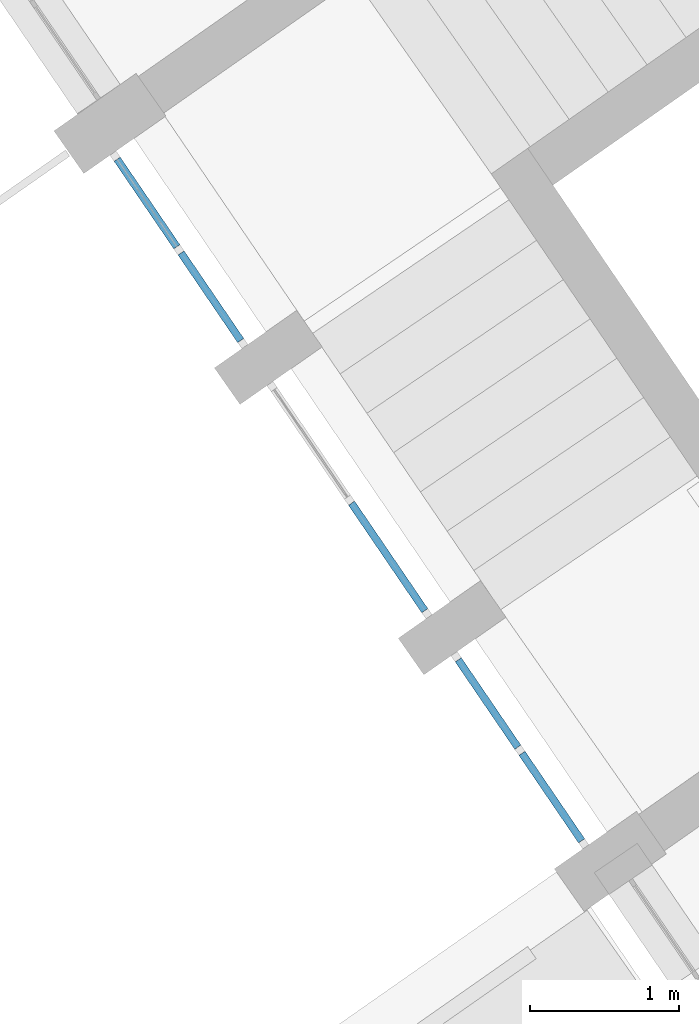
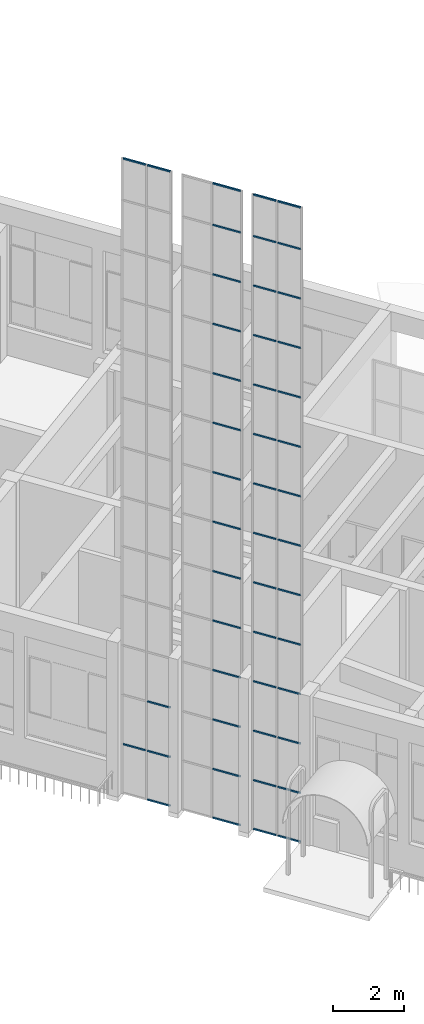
# One storey, part 31 of 157: 48 members, 3 elements without a shape of their own.
"""IFC2X3 building model written with IfcOpenShell, lengths in millimetres."""

from ifc_helpers import new_model, entity, si_unit, converted_unit, derived_unit, direction, frame, origin, origin_2d_with_axis, place, context, subcontext, project, spatial, rectangle, extrude, source, transform, mapped, material, type_object, type_shapes, element, aggregate, save


model = new_model("IFC2X3")

# Units and contexts
model_context = context("Model", 3, precision=0.01, world=origin(), true_north=direction((6.123031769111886e-17, 1.0)))
body_context = subcontext(model_context, "Body", "Model", "MODEL_VIEW")
ifc_project = project(units=[si_unit("LENGTHUNIT", "METRE", prefix="MILLI"), si_unit("AREAUNIT", "SQUARE_METRE"), si_unit("VOLUMEUNIT", "CUBIC_METRE"), converted_unit("PLANEANGLEUNIT", "DEGREE", entity("IfcRatioMeasure", 0.017453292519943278), si_unit("PLANEANGLEUNIT", "RADIAN"), dimensions=[0, 0, 0, 0, 0, 0, 0]), si_unit("MASSUNIT", "GRAM", prefix="KILO"), derived_unit("MASSDENSITYUNIT", [(si_unit("MASSUNIT", "GRAM", prefix="KILO"), 1), (si_unit("LENGTHUNIT", "METRE"), -3)]), derived_unit("MOMENTOFINERTIAUNIT", [(si_unit("LENGTHUNIT", "METRE"), 4)]), si_unit("TIMEUNIT", "SECOND"), si_unit("FREQUENCYUNIT", "HERTZ"), si_unit("THERMODYNAMICTEMPERATUREUNIT", "DEGREE_CELSIUS"), derived_unit("THERMALTRANSMITTANCEUNIT", [(si_unit("MASSUNIT", "GRAM", prefix="KILO"), 1), (si_unit("THERMODYNAMICTEMPERATUREUNIT", "KELVIN"), -1), (si_unit("TIMEUNIT", "SECOND"), -3)]), derived_unit("THERMALCONDUCTANCEUNIT", [(si_unit("MASSUNIT", "GRAM", prefix="KILO"), 1), (si_unit("LENGTHUNIT", "METRE"), 1), (si_unit("THERMODYNAMICTEMPERATUREUNIT", "KELVIN"), -1), (si_unit("TIMEUNIT", "SECOND"), -3)]), derived_unit("VOLUMETRICFLOWRATEUNIT", [(si_unit("LENGTHUNIT", "METRE"), 3), (si_unit("TIMEUNIT", "SECOND"), -1)]), derived_unit("MASSFLOWRATEUNIT", [(si_unit("MASSUNIT", "GRAM", prefix="KILO"), 1), (si_unit("TIMEUNIT", "SECOND"), -1)]), derived_unit("ROTATIONALFREQUENCYUNIT", [(si_unit("TIMEUNIT", "SECOND"), -1)]), si_unit("ELECTRICCURRENTUNIT", "AMPERE"), si_unit("ELECTRICVOLTAGEUNIT", "VOLT"), si_unit("POWERUNIT", "WATT"), converted_unit("FORCEUNIT", "KIP", entity("IfcRatioMeasure", 2.088543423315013e-05), si_unit("FORCEUNIT", "NEWTON"), dimensions=[1, 1, -2, 0, 0, 0, 0]), si_unit("ILLUMINANCEUNIT", "LUX"), si_unit("LUMINOUSFLUXUNIT", "LUMEN"), si_unit("LUMINOUSINTENSITYUNIT", "CANDELA"), derived_unit("USERDEFINED", [(si_unit("MASSUNIT", "GRAM", prefix="KILO"), -1), (si_unit("LENGTHUNIT", "METRE"), -2), (si_unit("TIMEUNIT", "SECOND"), 3), (si_unit("LUMINOUSFLUXUNIT", "LUMEN"), 1)]), derived_unit("USERDEFINED", [(si_unit("MASSUNIT", "GRAM", prefix="KILO"), 1), (si_unit("LENGTHUNIT", "METRE"), 3), (si_unit("TIMEUNIT", "SECOND"), -3), (si_unit("ELECTRICCURRENTUNIT", "AMPERE"), -2)]), derived_unit("USERDEFINED", [(si_unit("LENGTHUNIT", "METRE"), 2), (si_unit("TIMEUNIT", "SECOND"), -2)]), derived_unit("SOUNDPOWERUNIT", [(si_unit("MASSUNIT", "GRAM", prefix="KILO"), 1), (si_unit("LENGTHUNIT", "METRE"), 2), (si_unit("TIMEUNIT", "SECOND"), -3)]), derived_unit("SOUNDPRESSUREUNIT", [(si_unit("MASSUNIT", "GRAM", prefix="KILO"), 1), (si_unit("LENGTHUNIT", "METRE"), -1), (si_unit("TIMEUNIT", "SECOND"), -2)]), derived_unit("LINEARVELOCITYUNIT", [(si_unit("LENGTHUNIT", "METRE"), 1), (si_unit("TIMEUNIT", "SECOND"), -1)]), si_unit("PRESSUREUNIT", "PASCAL"), derived_unit("USERDEFINED", [(si_unit("LENGTHUNIT", "METRE"), -2), (si_unit("MASSUNIT", "GRAM", prefix="KILO"), 1), (si_unit("TIMEUNIT", "SECOND"), -2)]), derived_unit("LINEARFORCEUNIT", [(si_unit("MASSUNIT", "GRAM", prefix="KILO"), 1), (si_unit("LENGTHUNIT", "METRE"), 1), (si_unit("TIMEUNIT", "SECOND"), -2), (si_unit("LENGTHUNIT", "METRE"), -1)]), derived_unit("PLANARFORCEUNIT", [(si_unit("MASSUNIT", "GRAM", prefix="KILO"), 1), (si_unit("LENGTHUNIT", "METRE"), 1), (si_unit("TIMEUNIT", "SECOND"), -2), (si_unit("LENGTHUNIT", "METRE"), -2)]), derived_unit("SPECIFICHEATCAPACITYUNIT", [(si_unit("LENGTHUNIT", "METRE"), 2), (si_unit("TIMEUNIT", "SECOND"), -2), (si_unit("THERMODYNAMICTEMPERATUREUNIT", "KELVIN"), -1)]), derived_unit("VAPORPERMEABILITYUNIT", [(si_unit("TIMEUNIT", "SECOND"), 1), (si_unit("LENGTHUNIT", "METRE"), -1)]), derived_unit("DYNAMICVISCOSITYUNIT", [(si_unit("MASSUNIT", "GRAM", prefix="KILO"), 1), (si_unit("LENGTHUNIT", "METRE"), -1), (si_unit("TIMEUNIT", "SECOND"), -1)]), derived_unit("THERMALEXPANSIONCOEFFICIENTUNIT", [(si_unit("THERMODYNAMICTEMPERATUREUNIT", "KELVIN"), -1)])], contexts=[model_context])

# Site, building, storey
site_placement = place(None, frame((0.0, 0.0, 0.0), z_axis=(0.0, 0.0, 1.0), x_axis=(0.8191520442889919, 0.5735764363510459, 0.0)))
site = spatial("IfcSite", under=ifc_project, at=site_placement, Name="Default", CompositionType="ELEMENT")
building_placement = place(site_placement, origin())
building = spatial("IfcBuilding", under=site, at=building_placement, CompositionType="ELEMENT")
storey_placement = place(building_placement, origin())
storey = spatial("IfcBuildingStorey", under=building, at=storey_placement, Name="1.EG +0.00", CompositionType="ELEMENT", Elevation=-4.331468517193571e-12)

# Curtain wall, members
curtain_wall_type_1 = type_object("IfcCurtainWallType", Name="Curtain Wall:Curtain_Wall_CJC", PredefinedType="NOTDEFINED")
curtain_wall_1_placement = place(storey_placement, origin())
curtain_wall_1 = element("IfcCurtainWall", 1, at=curtain_wall_1_placement, inside=storey, type_object=curtain_wall_type_1, Name="Curtain Wall:Curtain_Wall_CJC", ObjectType="Curtain Wall:Curtain_Wall_CJC")
ifc_material = material(Name="Aluminium")
member_type_1 = type_object("IfcMemberType", Name="Rectangular Mullion:5x5", PredefinedType="MULLION", material=ifc_material)
shared_shape_1 = source(origin(), body_context, "Body", "SweptSolid", [
    extrude(rectangle(XDim=50.000000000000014, YDim=50.0, at=origin_2d_with_axis()), frame((-25.0, 0.0, -712.0002822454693), z_axis=(0.0, 0.0, 1.0), x_axis=(0.0, -1.0, 0.0)), (0.0, 0.0, 1.0), 712.0002822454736),
])
type_shapes(member_type_1, [shared_shape_1])
member_1_placement = place(curtain_wall_1_placement, frame((-223103.04818166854, 111395.23599748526, 21850.0), z_axis=(0.012729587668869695, 0.9999189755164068, 0.0), x_axis=(0.0, 0.0, 1.0)))
member_1 = element("IfcMember", 2, at=member_1_placement, type_object=member_type_1, material=ifc_material, Name="Rectangular Mullion:5x5", ObjectType="Rectangular Mullion:5x5", context=body_context, shape_type="MappedRepresentation", body=[
    mapped(shared_shape_1, transform((0.0, 0.0, 0.0), scale=1.0)),
])
member_2_placement = place(curtain_wall_1_placement, frame((-223112.7481310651, 110633.29745591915, 21850.0), z_axis=(0.012729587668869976, 0.9999189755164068, 0.0), x_axis=(0.0, 0.0, 1.0)))
member_2 = element("IfcMember", 3, at=member_2_placement, type_object=member_type_1, material=ifc_material, Name="Rectangular Mullion:5x5", ObjectType="Rectangular Mullion:5x5", context=body_context, shape_type="MappedRepresentation", body=[
    mapped(shared_shape_1, transform((0.0, 0.0, 0.0), scale=1.0)),
])
member_type_2 = type_object("IfcMemberType", Name="Rectangular Mullion:5x5", PredefinedType="MULLION", material=ifc_material)
shared_shape_2 = source(origin(), body_context, "Body", "SweptSolid", [
    extrude(rectangle(XDim=50.0, YDim=50.0, at=origin_2d_with_axis()), frame((0.0, 0.0, -712.0002822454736), z_axis=(0.0, 0.0, 1.0), x_axis=(0.0, -1.0, 0.0)), (0.0, 0.0, 1.0), 712.0002822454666),
])
type_shapes(member_type_2, [shared_shape_2])
member_3_placement = place(curtain_wall_1_placement, frame((-223112.7481310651, 110633.29745591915, 1700.0), z_axis=(0.012729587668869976, 0.9999189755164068, 0.0), x_axis=(0.0, 0.0, 1.0)))
member_3 = element("IfcMember", 4, at=member_3_placement, type_object=member_type_2, material=ifc_material, Name="Rectangular Mullion:5x5", ObjectType="Rectangular Mullion:5x5", context=body_context, shape_type="MappedRepresentation", body=[
    mapped(shared_shape_2, transform((0.0, 0.0, 0.0), scale=1.0)),
])
member_4_placement = place(curtain_wall_1_placement, frame((-223112.7481310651, 110633.29745591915, 3400.0), z_axis=(0.012729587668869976, 0.9999189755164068, 0.0), x_axis=(0.0, 0.0, 1.0)))
member_4 = element("IfcMember", 5, at=member_4_placement, type_object=member_type_2, material=ifc_material, Name="Rectangular Mullion:5x5", ObjectType="Rectangular Mullion:5x5", context=body_context, shape_type="MappedRepresentation", body=[
    mapped(shared_shape_2, transform((0.0, 0.0, 0.0), scale=1.0)),
])
member_5_placement = place(curtain_wall_1_placement, frame((-223103.04818166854, 111395.23599748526, 1700.0), z_axis=(0.012729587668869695, 0.9999189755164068, 0.0), x_axis=(0.0, 0.0, 1.0)))
member_5 = element("IfcMember", 6, at=member_5_placement, type_object=member_type_2, material=ifc_material, Name="Rectangular Mullion:5x5", ObjectType="Rectangular Mullion:5x5", context=body_context, shape_type="MappedRepresentation", body=[
    mapped(shared_shape_2, transform((0.0, 0.0, 0.0), scale=1.0)),
])
member_6_placement = place(curtain_wall_1_placement, frame((-223103.04818166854, 111395.23599748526, 3400.0), z_axis=(0.012729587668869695, 0.9999189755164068, 0.0), x_axis=(0.0, 0.0, 1.0)))
member_6 = element("IfcMember", 7, at=member_6_placement, type_object=member_type_2, material=ifc_material, Name="Rectangular Mullion:5x5", ObjectType="Rectangular Mullion:5x5", context=body_context, shape_type="MappedRepresentation", body=[
    mapped(shared_shape_2, transform((0.0, 0.0, 0.0), scale=1.0)),
])
member_7_placement = place(curtain_wall_1_placement, frame((-223112.7481310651, 110633.29745591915, 5100.0), z_axis=(0.012729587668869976, 0.9999189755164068, 0.0), x_axis=(0.0, 0.0, 1.0)))
member_7 = element("IfcMember", 8, at=member_7_placement, type_object=member_type_2, material=ifc_material, Name="Rectangular Mullion:5x5", ObjectType="Rectangular Mullion:5x5", context=body_context, shape_type="MappedRepresentation", body=[
    mapped(shared_shape_2, transform((0.0, 0.0, 0.0), scale=1.0)),
])
member_8_placement = place(curtain_wall_1_placement, frame((-223103.04818166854, 111395.23599748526, 5100.0), z_axis=(0.012729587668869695, 0.9999189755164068, 0.0), x_axis=(0.0, 0.0, 1.0)))
member_8 = element("IfcMember", 9, at=member_8_placement, type_object=member_type_2, material=ifc_material, Name="Rectangular Mullion:5x5", ObjectType="Rectangular Mullion:5x5", context=body_context, shape_type="MappedRepresentation", body=[
    mapped(shared_shape_2, transform((0.0, 0.0, 0.0), scale=1.0)),
])
member_9_placement = place(curtain_wall_1_placement, frame((-223112.7481310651, 110633.29745591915, 6800.0), z_axis=(0.012729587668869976, 0.9999189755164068, 0.0), x_axis=(0.0, 0.0, 1.0)))
member_9 = element("IfcMember", 10, at=member_9_placement, type_object=member_type_2, material=ifc_material, Name="Rectangular Mullion:5x5", ObjectType="Rectangular Mullion:5x5", context=body_context, shape_type="MappedRepresentation", body=[
    mapped(shared_shape_2, transform((0.0, 0.0, 0.0), scale=1.0)),
])
member_10_placement = place(curtain_wall_1_placement, frame((-223103.04818166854, 111395.23599748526, 6800.0), z_axis=(0.012729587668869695, 0.9999189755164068, 0.0), x_axis=(0.0, 0.0, 1.0)))
member_10 = element("IfcMember", 11, at=member_10_placement, type_object=member_type_2, material=ifc_material, Name="Rectangular Mullion:5x5", ObjectType="Rectangular Mullion:5x5", context=body_context, shape_type="MappedRepresentation", body=[
    mapped(shared_shape_2, transform((0.0, 0.0, 0.0), scale=1.0)),
])
member_11_placement = place(curtain_wall_1_placement, frame((-223112.7481310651, 110633.29745591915, 8500.0), z_axis=(0.012729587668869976, 0.9999189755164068, 0.0), x_axis=(0.0, 0.0, 1.0)))
member_11 = element("IfcMember", 12, at=member_11_placement, type_object=member_type_2, material=ifc_material, Name="Rectangular Mullion:5x5", ObjectType="Rectangular Mullion:5x5", context=body_context, shape_type="MappedRepresentation", body=[
    mapped(shared_shape_2, transform((0.0, 0.0, 0.0), scale=1.0)),
])
member_12_placement = place(curtain_wall_1_placement, frame((-223103.04818166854, 111395.23599748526, 8500.0), z_axis=(0.012729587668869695, 0.9999189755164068, 0.0), x_axis=(0.0, 0.0, 1.0)))
member_12 = element("IfcMember", 13, at=member_12_placement, type_object=member_type_2, material=ifc_material, Name="Rectangular Mullion:5x5", ObjectType="Rectangular Mullion:5x5", context=body_context, shape_type="MappedRepresentation", body=[
    mapped(shared_shape_2, transform((0.0, 0.0, 0.0), scale=1.0)),
])
member_13_placement = place(curtain_wall_1_placement, frame((-223112.7481310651, 110633.29745591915, 10200.0), z_axis=(0.012729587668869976, 0.9999189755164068, 0.0), x_axis=(0.0, 0.0, 1.0)))
member_13 = element("IfcMember", 14, at=member_13_placement, type_object=member_type_2, material=ifc_material, Name="Rectangular Mullion:5x5", ObjectType="Rectangular Mullion:5x5", context=body_context, shape_type="MappedRepresentation", body=[
    mapped(shared_shape_2, transform((0.0, 0.0, 0.0), scale=1.0)),
])
member_14_placement = place(curtain_wall_1_placement, frame((-223103.04818166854, 111395.23599748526, 10200.0), z_axis=(0.012729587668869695, 0.9999189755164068, 0.0), x_axis=(0.0, 0.0, 1.0)))
member_14 = element("IfcMember", 15, at=member_14_placement, type_object=member_type_2, material=ifc_material, Name="Rectangular Mullion:5x5", ObjectType="Rectangular Mullion:5x5", context=body_context, shape_type="MappedRepresentation", body=[
    mapped(shared_shape_2, transform((0.0, 0.0, 0.0), scale=1.0)),
])
member_15_placement = place(curtain_wall_1_placement, frame((-223112.7481310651, 110633.29745591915, 11900.0), z_axis=(0.012729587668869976, 0.9999189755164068, 0.0), x_axis=(0.0, 0.0, 1.0)))
member_15 = element("IfcMember", 16, at=member_15_placement, type_object=member_type_2, material=ifc_material, Name="Rectangular Mullion:5x5", ObjectType="Rectangular Mullion:5x5", context=body_context, shape_type="MappedRepresentation", body=[
    mapped(shared_shape_2, transform((0.0, 0.0, 0.0), scale=1.0)),
])
member_16_placement = place(curtain_wall_1_placement, frame((-223103.04818166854, 111395.23599748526, 11900.0), z_axis=(0.012729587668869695, 0.9999189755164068, 0.0), x_axis=(0.0, 0.0, 1.0)))
member_16 = element("IfcMember", 17, at=member_16_placement, type_object=member_type_2, material=ifc_material, Name="Rectangular Mullion:5x5", ObjectType="Rectangular Mullion:5x5", context=body_context, shape_type="MappedRepresentation", body=[
    mapped(shared_shape_2, transform((0.0, 0.0, 0.0), scale=1.0)),
])
member_17_placement = place(curtain_wall_1_placement, frame((-223112.7481310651, 110633.29745591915, 13600.0), z_axis=(0.012729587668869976, 0.9999189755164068, 0.0), x_axis=(0.0, 0.0, 1.0)))
member_17 = element("IfcMember", 18, at=member_17_placement, type_object=member_type_2, material=ifc_material, Name="Rectangular Mullion:5x5", ObjectType="Rectangular Mullion:5x5", context=body_context, shape_type="MappedRepresentation", body=[
    mapped(shared_shape_2, transform((0.0, 0.0, 0.0), scale=1.0)),
])
member_18_placement = place(curtain_wall_1_placement, frame((-223103.04818166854, 111395.23599748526, 13600.0), z_axis=(0.012729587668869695, 0.9999189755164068, 0.0), x_axis=(0.0, 0.0, 1.0)))
member_18 = element("IfcMember", 19, at=member_18_placement, type_object=member_type_2, material=ifc_material, Name="Rectangular Mullion:5x5", ObjectType="Rectangular Mullion:5x5", context=body_context, shape_type="MappedRepresentation", body=[
    mapped(shared_shape_2, transform((0.0, 0.0, 0.0), scale=1.0)),
])
member_19_placement = place(curtain_wall_1_placement, frame((-223112.7481310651, 110633.29745591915, 15300.0), z_axis=(0.012729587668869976, 0.9999189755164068, 0.0), x_axis=(0.0, 0.0, 1.0)))
member_19 = element("IfcMember", 20, at=member_19_placement, type_object=member_type_2, material=ifc_material, Name="Rectangular Mullion:5x5", ObjectType="Rectangular Mullion:5x5", context=body_context, shape_type="MappedRepresentation", body=[
    mapped(shared_shape_2, transform((0.0, 0.0, 0.0), scale=1.0)),
])
member_20_placement = place(curtain_wall_1_placement, frame((-223103.04818166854, 111395.23599748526, 15300.0), z_axis=(0.012729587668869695, 0.9999189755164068, 0.0), x_axis=(0.0, 0.0, 1.0)))
member_20 = element("IfcMember", 21, at=member_20_placement, type_object=member_type_2, material=ifc_material, Name="Rectangular Mullion:5x5", ObjectType="Rectangular Mullion:5x5", context=body_context, shape_type="MappedRepresentation", body=[
    mapped(shared_shape_2, transform((0.0, 0.0, 0.0), scale=1.0)),
])
member_21_placement = place(curtain_wall_1_placement, frame((-223112.7481310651, 110633.29745591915, 17000.0), z_axis=(0.012729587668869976, 0.9999189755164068, 0.0), x_axis=(0.0, 0.0, 1.0)))
member_21 = element("IfcMember", 22, at=member_21_placement, type_object=member_type_2, material=ifc_material, Name="Rectangular Mullion:5x5", ObjectType="Rectangular Mullion:5x5", context=body_context, shape_type="MappedRepresentation", body=[
    mapped(shared_shape_2, transform((0.0, 0.0, 0.0), scale=1.0)),
])
member_22_placement = place(curtain_wall_1_placement, frame((-223103.04818166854, 111395.23599748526, 17000.0), z_axis=(0.012729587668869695, 0.9999189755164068, 0.0), x_axis=(0.0, 0.0, 1.0)))
member_22 = element("IfcMember", 23, at=member_22_placement, type_object=member_type_2, material=ifc_material, Name="Rectangular Mullion:5x5", ObjectType="Rectangular Mullion:5x5", context=body_context, shape_type="MappedRepresentation", body=[
    mapped(shared_shape_2, transform((0.0, 0.0, 0.0), scale=1.0)),
])
member_23_placement = place(curtain_wall_1_placement, frame((-223112.7481310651, 110633.29745591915, 18700.0), z_axis=(0.012729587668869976, 0.9999189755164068, 0.0), x_axis=(0.0, 0.0, 1.0)))
member_23 = element("IfcMember", 24, at=member_23_placement, type_object=member_type_2, material=ifc_material, Name="Rectangular Mullion:5x5", ObjectType="Rectangular Mullion:5x5", context=body_context, shape_type="MappedRepresentation", body=[
    mapped(shared_shape_2, transform((0.0, 0.0, 0.0), scale=1.0)),
])
member_24_placement = place(curtain_wall_1_placement, frame((-223103.04818166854, 111395.23599748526, 18700.0), z_axis=(0.012729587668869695, 0.9999189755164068, 0.0), x_axis=(0.0, 0.0, 1.0)))
member_24 = element("IfcMember", 25, at=member_24_placement, type_object=member_type_2, material=ifc_material, Name="Rectangular Mullion:5x5", ObjectType="Rectangular Mullion:5x5", context=body_context, shape_type="MappedRepresentation", body=[
    mapped(shared_shape_2, transform((0.0, 0.0, 0.0), scale=1.0)),
])
member_25_placement = place(curtain_wall_1_placement, frame((-223112.7481310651, 110633.29745591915, 20400.0), z_axis=(0.012729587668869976, 0.9999189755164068, 0.0), x_axis=(0.0, 0.0, 1.0)))
member_25 = element("IfcMember", 26, at=member_25_placement, type_object=member_type_2, material=ifc_material, Name="Rectangular Mullion:5x5", ObjectType="Rectangular Mullion:5x5", context=body_context, shape_type="MappedRepresentation", body=[
    mapped(shared_shape_2, transform((0.0, 0.0, 0.0), scale=1.0)),
])
member_26_placement = place(curtain_wall_1_placement, frame((-223103.04818166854, 111395.23599748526, 20400.0), z_axis=(0.012729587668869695, 0.9999189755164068, 0.0), x_axis=(0.0, 0.0, 1.0)))
member_26 = element("IfcMember", 27, at=member_26_placement, type_object=member_type_2, material=ifc_material, Name="Rectangular Mullion:5x5", ObjectType="Rectangular Mullion:5x5", context=body_context, shape_type="MappedRepresentation", body=[
    mapped(shared_shape_2, transform((0.0, 0.0, 0.0), scale=1.0)),
])
member_type_3 = type_object("IfcMemberType", Name="Rectangular Mullion:5x5", PredefinedType="MULLION", material=ifc_material)
shared_shape_3 = source(origin(), body_context, "Body", "SweptSolid", [
    extrude(rectangle(XDim=50.000000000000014, YDim=50.0, at=origin_2d_with_axis()), frame((-25.0, 0.0, -712.0002822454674), z_axis=(0.0, 0.0, 1.0), x_axis=(0.0, -1.0, 0.0)), (0.0, 0.0, 1.0), 712.0002822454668),
])
type_shapes(member_type_3, [shared_shape_3])
member_27_placement = place(curtain_wall_1_placement, frame((-223121.81160107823, 109921.35486312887, 0.0), z_axis=(-0.012729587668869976, -0.9999189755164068, 0.0), x_axis=(0.0, 0.0, -1.0)))
member_27 = element("IfcMember", 28, at=member_27_placement, type_object=member_type_3, material=ifc_material, Name="Rectangular Mullion:5x5", ObjectType="Rectangular Mullion:5x5", context=body_context, shape_type="MappedRepresentation", body=[
    mapped(shared_shape_3, transform((0.0, 0.0, 0.0), scale=1.0)),
])
member_28_placement = place(curtain_wall_1_placement, frame((-223112.11165168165, 110683.29340469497, 0.0), z_axis=(-0.012729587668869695, -0.9999189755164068, 0.0), x_axis=(0.0, 0.0, -1.0)))
member_28 = element("IfcMember", 29, at=member_28_placement, type_object=member_type_3, material=ifc_material, Name="Rectangular Mullion:5x5", ObjectType="Rectangular Mullion:5x5", context=body_context, shape_type="MappedRepresentation", body=[
    mapped(shared_shape_3, transform((0.0, 0.0, 0.0), scale=1.0)),
])
aggregate(curtain_wall_1, [member_1, member_3, member_27, member_4, member_2, member_5, member_28, member_6, member_7, member_8, member_9, member_10, member_11, member_12, member_13, member_14, member_15, member_16, member_17, member_18, member_19, member_20, member_21, member_22, member_23, member_24, member_25, member_26])

curtain_wall_type_2 = type_object("IfcCurtainWallType", Name="Curtain Wall:Curtain_Wall_CJC 2", PredefinedType="NOTDEFINED")
curtain_wall_2_placement = place(storey_placement, origin())
curtain_wall_2 = element("IfcCurtainWall", 30, at=curtain_wall_2_placement, inside=storey, type_object=curtain_wall_type_2, Name="Curtain Wall:Curtain_Wall_CJC 2", ObjectType="Curtain Wall:Curtain_Wall_CJC 2")
member_type_4 = type_object("IfcMemberType", Name="Rectangular Mullion:5x5", PredefinedType="MULLION", material=ifc_material)
shared_shape_4 = source(origin(), body_context, "Body", "SweptSolid", [
    extrude(rectangle(XDim=50.000000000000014, YDim=50.0, at=origin_2d_with_axis()), frame((-25.0, 0.0, -875.0769794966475), z_axis=(0.0, 0.0, 1.0), x_axis=(0.0, -1.0, 0.0)), (0.0, 0.0, 1.0), 875.0769794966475),
])
type_shapes(member_type_4, [shared_shape_4])
member_29_placement = place(curtain_wall_2_placement, frame((-223086.81666802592, 112670.23397187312, 21850.0), z_axis=(0.01272958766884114, 0.9999189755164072, 0.0), x_axis=(0.0, 0.0, 1.0)))
member_29 = element("IfcMember", 31, at=member_29_placement, type_object=member_type_4, material=ifc_material, Name="Rectangular Mullion:5x5", ObjectType="Rectangular Mullion:5x5", context=body_context, shape_type="MappedRepresentation", body=[
    mapped(shared_shape_4, transform((0.0, 0.0, 0.0), scale=1.0)),
])
member_type_5 = type_object("IfcMemberType", Name="Rectangular Mullion:5x5", PredefinedType="MULLION", material=ifc_material)
shared_shape_5 = source(origin(), body_context, "Body", "SweptSolid", [
    extrude(rectangle(XDim=50.0, YDim=50.0, at=origin_2d_with_axis()), frame((0.0, 0.0, -875.0769794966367), z_axis=(0.0, 0.0, 1.0), x_axis=(0.0, -1.0, 0.0)), (0.0, 0.0, 1.0), 875.0769794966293),
])
type_shapes(member_type_5, [shared_shape_5])
member_30_placement = place(curtain_wall_2_placement, frame((-223086.81666802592, 112670.23397187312, 1700.0), z_axis=(0.01272958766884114, 0.9999189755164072, 0.0), x_axis=(0.0, 0.0, 1.0)))
member_30 = element("IfcMember", 32, at=member_30_placement, type_object=member_type_5, material=ifc_material, Name="Rectangular Mullion:5x5", ObjectType="Rectangular Mullion:5x5", context=body_context, shape_type="MappedRepresentation", body=[
    mapped(shared_shape_5, transform((0.0, 0.0, 0.0), scale=1.0)),
])
member_31_placement = place(curtain_wall_2_placement, frame((-223086.81666802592, 112670.23397187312, 3400.0), z_axis=(0.01272958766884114, 0.9999189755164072, 0.0), x_axis=(0.0, 0.0, 1.0)))
member_31 = element("IfcMember", 33, at=member_31_placement, type_object=member_type_5, material=ifc_material, Name="Rectangular Mullion:5x5", ObjectType="Rectangular Mullion:5x5", context=body_context, shape_type="MappedRepresentation", body=[
    mapped(shared_shape_5, transform((0.0, 0.0, 0.0), scale=1.0)),
])
member_32_placement = place(curtain_wall_2_placement, frame((-223086.81666802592, 112670.23397187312, 5100.0), z_axis=(0.01272958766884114, 0.9999189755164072, 0.0), x_axis=(0.0, 0.0, 1.0)))
member_32 = element("IfcMember", 34, at=member_32_placement, type_object=member_type_5, material=ifc_material, Name="Rectangular Mullion:5x5", ObjectType="Rectangular Mullion:5x5", context=body_context, shape_type="MappedRepresentation", body=[
    mapped(shared_shape_5, transform((0.0, 0.0, 0.0), scale=1.0)),
])
member_33_placement = place(curtain_wall_2_placement, frame((-223086.81666802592, 112670.23397187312, 6800.0), z_axis=(0.01272958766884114, 0.9999189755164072, 0.0), x_axis=(0.0, 0.0, 1.0)))
member_33 = element("IfcMember", 35, at=member_33_placement, type_object=member_type_5, material=ifc_material, Name="Rectangular Mullion:5x5", ObjectType="Rectangular Mullion:5x5", context=body_context, shape_type="MappedRepresentation", body=[
    mapped(shared_shape_5, transform((0.0, 0.0, 0.0), scale=1.0)),
])
member_34_placement = place(curtain_wall_2_placement, frame((-223086.81666802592, 112670.23397187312, 8500.0), z_axis=(0.01272958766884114, 0.9999189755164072, 0.0), x_axis=(0.0, 0.0, 1.0)))
member_34 = element("IfcMember", 36, at=member_34_placement, type_object=member_type_5, material=ifc_material, Name="Rectangular Mullion:5x5", ObjectType="Rectangular Mullion:5x5", context=body_context, shape_type="MappedRepresentation", body=[
    mapped(shared_shape_5, transform((0.0, 0.0, 0.0), scale=1.0)),
])
member_35_placement = place(curtain_wall_2_placement, frame((-223086.81666802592, 112670.23397187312, 10200.0), z_axis=(0.01272958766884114, 0.9999189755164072, 0.0), x_axis=(0.0, 0.0, 1.0)))
member_35 = element("IfcMember", 37, at=member_35_placement, type_object=member_type_5, material=ifc_material, Name="Rectangular Mullion:5x5", ObjectType="Rectangular Mullion:5x5", context=body_context, shape_type="MappedRepresentation", body=[
    mapped(shared_shape_5, transform((0.0, 0.0, 0.0), scale=1.0)),
])
member_36_placement = place(curtain_wall_2_placement, frame((-223086.81666802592, 112670.23397187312, 11900.0), z_axis=(0.01272958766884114, 0.9999189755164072, 0.0), x_axis=(0.0, 0.0, 1.0)))
member_36 = element("IfcMember", 38, at=member_36_placement, type_object=member_type_5, material=ifc_material, Name="Rectangular Mullion:5x5", ObjectType="Rectangular Mullion:5x5", context=body_context, shape_type="MappedRepresentation", body=[
    mapped(shared_shape_5, transform((0.0, 0.0, 0.0), scale=1.0)),
])
member_37_placement = place(curtain_wall_2_placement, frame((-223086.81666802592, 112670.23397187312, 13600.0), z_axis=(0.01272958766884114, 0.9999189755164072, 0.0), x_axis=(0.0, 0.0, 1.0)))
member_37 = element("IfcMember", 39, at=member_37_placement, type_object=member_type_5, material=ifc_material, Name="Rectangular Mullion:5x5", ObjectType="Rectangular Mullion:5x5", context=body_context, shape_type="MappedRepresentation", body=[
    mapped(shared_shape_5, transform((0.0, 0.0, 0.0), scale=1.0)),
])
member_38_placement = place(curtain_wall_2_placement, frame((-223086.81666802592, 112670.23397187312, 15300.0), z_axis=(0.01272958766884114, 0.9999189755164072, 0.0), x_axis=(0.0, 0.0, 1.0)))
member_38 = element("IfcMember", 40, at=member_38_placement, type_object=member_type_5, material=ifc_material, Name="Rectangular Mullion:5x5", ObjectType="Rectangular Mullion:5x5", context=body_context, shape_type="MappedRepresentation", body=[
    mapped(shared_shape_5, transform((0.0, 0.0, 0.0), scale=1.0)),
])
member_39_placement = place(curtain_wall_2_placement, frame((-223086.81666802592, 112670.23397187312, 17000.0), z_axis=(0.01272958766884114, 0.9999189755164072, 0.0), x_axis=(0.0, 0.0, 1.0)))
member_39 = element("IfcMember", 41, at=member_39_placement, type_object=member_type_5, material=ifc_material, Name="Rectangular Mullion:5x5", ObjectType="Rectangular Mullion:5x5", context=body_context, shape_type="MappedRepresentation", body=[
    mapped(shared_shape_5, transform((0.0, 0.0, 0.0), scale=1.0)),
])
member_40_placement = place(curtain_wall_2_placement, frame((-223086.81666802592, 112670.23397187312, 18700.0), z_axis=(0.01272958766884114, 0.9999189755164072, 0.0), x_axis=(0.0, 0.0, 1.0)))
member_40 = element("IfcMember", 42, at=member_40_placement, type_object=member_type_5, material=ifc_material, Name="Rectangular Mullion:5x5", ObjectType="Rectangular Mullion:5x5", context=body_context, shape_type="MappedRepresentation", body=[
    mapped(shared_shape_5, transform((0.0, 0.0, 0.0), scale=1.0)),
])
member_41_placement = place(curtain_wall_2_placement, frame((-223086.81666802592, 112670.23397187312, 20400.0), z_axis=(0.01272958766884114, 0.9999189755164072, 0.0), x_axis=(0.0, 0.0, 1.0)))
member_41 = element("IfcMember", 43, at=member_41_placement, type_object=member_type_5, material=ifc_material, Name="Rectangular Mullion:5x5", ObjectType="Rectangular Mullion:5x5", context=body_context, shape_type="MappedRepresentation", body=[
    mapped(shared_shape_5, transform((0.0, 0.0, 0.0), scale=1.0)),
])
member_type_6 = type_object("IfcMemberType", Name="Rectangular Mullion:5x5", PredefinedType="MULLION", material=ifc_material)
shared_shape_6 = source(origin(), body_context, "Body", "SweptSolid", [
    extrude(rectangle(XDim=49.99999999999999, YDim=50.0, at=origin_2d_with_axis()), frame((-25.0, 0.0, -875.0769794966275), z_axis=(0.0, 0.0, 1.0), x_axis=(0.0, -1.0, 0.0)), (0.0, 0.0, 1.0), 875.0769794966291),
])
type_shapes(member_type_6, [shared_shape_6])
member_42_placement = place(curtain_wall_2_placement, frame((-223097.9560371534, 111795.22789503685, 0.0), z_axis=(-0.01272958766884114, -0.9999189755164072, 0.0), x_axis=(0.0, 0.0, -1.0)))
member_42 = element("IfcMember", 44, at=member_42_placement, type_object=member_type_6, material=ifc_material, Name="Rectangular Mullion:5x5", ObjectType="Rectangular Mullion:5x5", context=body_context, shape_type="MappedRepresentation", body=[
    mapped(shared_shape_6, transform((0.0, 0.0, 0.0), scale=1.0)),
])
aggregate(curtain_wall_2, [member_30, member_42, member_31, member_29, member_32, member_33, member_34, member_35, member_36, member_37, member_38, member_39, member_40, member_41])

curtain_wall_3_placement = place(storey_placement, origin())
curtain_wall_3 = element("IfcCurtainWall", 45, at=curtain_wall_3_placement, inside=storey, type_object=curtain_wall_type_1, Name="Curtain Wall:Curtain_Wall_CJC", ObjectType="Curtain Wall:Curtain_Wall_CJC")
member_type_7 = type_object("IfcMemberType", Name="Rectangular Mullion:5x5", PredefinedType="MULLION", material=ifc_material)
shared_shape_7 = source(origin(), body_context, "Body", "SweptSolid", [
    extrude(rectangle(XDim=49.99999999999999, YDim=50.0, at=origin_2d_with_axis()), frame((-25.0, 0.0, -713.1273416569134), z_axis=(0.0, 0.0, 1.0), x_axis=(0.0, -1.0, 0.0)), (0.0, 0.0, 1.0), 713.1273416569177),
])
type_shapes(member_type_7, [shared_shape_7])
member_43_placement = place(curtain_wall_3_placement, frame((-223051.15656158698, 115471.36296557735, 21850.0), z_axis=(0.012729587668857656, 0.999918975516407, 0.0), x_axis=(0.0, 0.0, 1.0)))
member_43 = element("IfcMember", 46, at=member_43_placement, type_object=member_type_7, material=ifc_material, Name="Rectangular Mullion:5x5", ObjectType="Rectangular Mullion:5x5", context=body_context, shape_type="MappedRepresentation", body=[
    mapped(shared_shape_7, transform((0.0, 0.0, 0.0), scale=1.0)),
])
member_44_placement = place(curtain_wall_3_placement, frame((-223060.87085798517, 114708.29745591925, 21850.0), z_axis=(0.012729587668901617, 0.9999189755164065, 0.0), x_axis=(0.0, 0.0, 1.0)))
member_44 = element("IfcMember", 47, at=member_44_placement, type_object=member_type_7, material=ifc_material, Name="Rectangular Mullion:5x5", ObjectType="Rectangular Mullion:5x5", context=body_context, shape_type="MappedRepresentation", body=[
    mapped(shared_shape_7, transform((0.0, 0.0, 0.0), scale=1.0)),
])
member_type_8 = type_object("IfcMemberType", Name="Rectangular Mullion:5x5", PredefinedType="MULLION", material=ifc_material)
shared_shape_8 = source(origin(), body_context, "Body", "SweptSolid", [
    extrude(rectangle(XDim=50.0, YDim=50.0, at=origin_2d_with_axis()), frame((0.0, 0.0, -713.1273416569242), z_axis=(0.0, 0.0, 1.0), x_axis=(0.0, -1.0, 0.0)), (0.0, 0.0, 1.0), 713.1273416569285),
])
type_shapes(member_type_8, [shared_shape_8])
member_45_placement = place(curtain_wall_3_placement, frame((-223060.87085798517, 114708.29745591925, 1700.0), z_axis=(0.012729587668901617, 0.9999189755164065, 0.0), x_axis=(0.0, 0.0, 1.0)))
member_45 = element("IfcMember", 48, at=member_45_placement, type_object=member_type_8, material=ifc_material, Name="Rectangular Mullion:5x5", ObjectType="Rectangular Mullion:5x5", context=body_context, shape_type="MappedRepresentation", body=[
    mapped(shared_shape_8, transform((0.0, 0.0, 0.0), scale=1.0)),
])
member_46_placement = place(curtain_wall_3_placement, frame((-223060.87085798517, 114708.29745591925, 3400.0), z_axis=(0.012729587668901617, 0.9999189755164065, 0.0), x_axis=(0.0, 0.0, 1.0)))
member_46 = element("IfcMember", 49, at=member_46_placement, type_object=member_type_8, material=ifc_material, Name="Rectangular Mullion:5x5", ObjectType="Rectangular Mullion:5x5", context=body_context, shape_type="MappedRepresentation", body=[
    mapped(shared_shape_8, transform((0.0, 0.0, 0.0), scale=1.0)),
])
member_47_placement = place(curtain_wall_3_placement, frame((-223051.15656158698, 115471.36296557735, 1700.0), z_axis=(0.012729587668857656, 0.999918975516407, 0.0), x_axis=(0.0, 0.0, 1.0)))
member_47 = element("IfcMember", 50, at=member_47_placement, type_object=member_type_8, material=ifc_material, Name="Rectangular Mullion:5x5", ObjectType="Rectangular Mullion:5x5", context=body_context, shape_type="MappedRepresentation", body=[
    mapped(shared_shape_8, transform((0.0, 0.0, 0.0), scale=1.0)),
])
member_type_9 = type_object("IfcMemberType", Name="Rectangular Mullion:5x5", PredefinedType="MULLION", material=ifc_material)
shared_shape_9 = source(origin(), body_context, "Body", "SweptSolid", [
    extrude(rectangle(XDim=49.99999999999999, YDim=50.0, at=origin_2d_with_axis()), frame((-25.0, 0.0, -713.127341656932), z_axis=(0.0, 0.0, 1.0), x_axis=(0.0, -1.0, 0.0)), (0.0, 0.0, 1.0), 713.1273416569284),
])
type_shapes(member_type_9, [shared_shape_9])
member_48_placement = place(curtain_wall_3_placement, frame((-223069.94867499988, 113995.22789503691, 0.0), z_axis=(-0.012729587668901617, -0.9999189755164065, 0.0), x_axis=(0.0, 0.0, -1.0)))
member_48 = element("IfcMember", 51, at=member_48_placement, type_object=member_type_9, material=ifc_material, Name="Rectangular Mullion:5x5", ObjectType="Rectangular Mullion:5x5", context=body_context, shape_type="MappedRepresentation", body=[
    mapped(shared_shape_9, transform((0.0, 0.0, 0.0), scale=1.0)),
])
aggregate(curtain_wall_3, [member_43, member_45, member_48, member_46, member_44, member_47])

save(model, "model.ifc")
